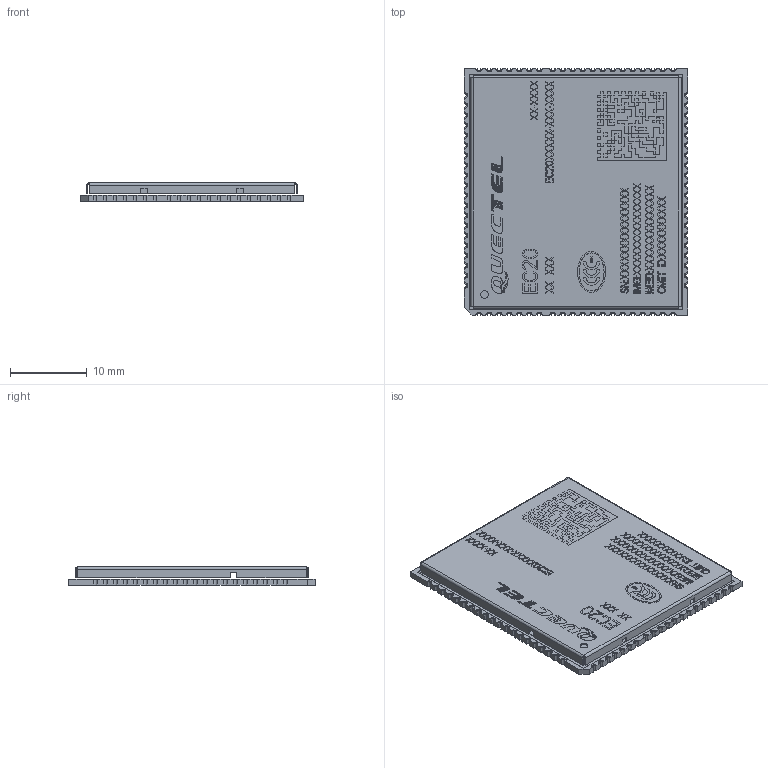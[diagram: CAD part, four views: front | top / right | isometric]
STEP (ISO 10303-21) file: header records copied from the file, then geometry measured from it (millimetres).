
FILE_DESCRIPTION((''),'2;1');
FILE_NAME('EC20_R2_1_ASSY_3D_20171216_ASM','2017-12-16T',('siler'),(''),'CREO PARAMETRIC BY PTC INC, 2014190','CREO PARAMETRIC BY PTC INC, 2014190','');
FILE_SCHEMA(('AUTOMOTIVE_DESIGN { 1 0 10303 214 1 1 1 1 }'));
Products named in the file (3): EC20_PCB; EC20_SHIELDING-CASE; EC20_R2_1_ASSY_3D_20171216_ASM
Assembly tree (2 placements, depth 2):
  EC20_R2_1_ASSY_3D_20171216_ASM
    EC20_PCB
    EC20_SHIELDING-CASE
Bounding box: 29 x 32 x 2.4 mm (x, y, z)
Volume: 871.9 mm3; surface area: 3924.8 mm2
Topology: 2 solids, 2 shells, 3442 faces, 9619 edges, 6404 vertices
Faces by surface type: plane 3210, cylinder 182, extrusion 50
Entity records: 144690 total; most frequent: CARTESIAN_POINT 20055, ORIENTED_EDGE 19238, DIRECTION 16893, PRESENTATION_STYLE_ASSIGNMENT 10419, STYLED_ITEM 9621, CURVE_STYLE 9619, EDGE_CURVE 9619, VECTOR 9039
